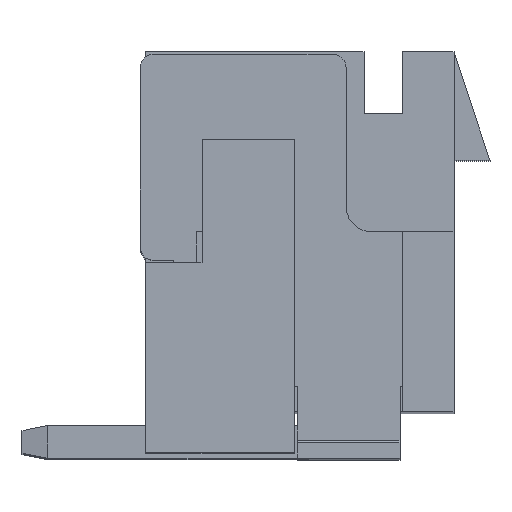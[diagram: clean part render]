
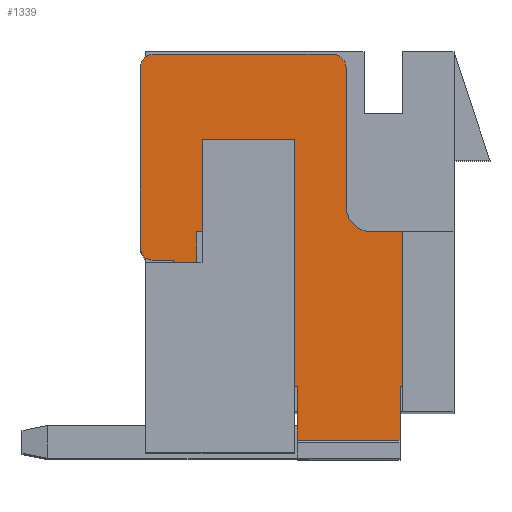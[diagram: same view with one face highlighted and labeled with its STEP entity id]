
A CAD part, top view. The second image highlights one B-rep face of the part: STEP entity #1339.
In plain terms, the highlighted planar face has unit normal (0, 0, 1).
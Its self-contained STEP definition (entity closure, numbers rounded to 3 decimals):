
#565=CARTESIAN_POINT('Vertex',(4.,-0.25,0.3)) ;
#579=CARTESIAN_POINT('Vertex',(3.75,0.,0.3)) ;
#582=CARTESIAN_POINT('Axis2P3D Location',(3.75,-0.25,0.3)) ;
#762=CARTESIAN_POINT('Vertex',(0.25,0.,0.3)) ;
#765=CARTESIAN_POINT('Line Origine',(2.,0.,0.3)) ;
#795=CARTESIAN_POINT('Vertex',(5.05,-7.5,0.3)) ;
#798=CARTESIAN_POINT('Line Origine',(2.775,-7.5,0.3)) ;
#802=CARTESIAN_POINT('Vertex',(3.05,-7.5,0.3)) ;
#941=CARTESIAN_POINT('Vertex',(5.05,-6.45,0.3)) ;
#944=CARTESIAN_POINT('Line Origine',(5.05,-6.975,0.3)) ;
#969=CARTESIAN_POINT('Vertex',(5.55,-6.45,0.3)) ;
#972=CARTESIAN_POINT('Line Origine',(5.3,-6.45,0.3)) ;
#993=CARTESIAN_POINT('Vertex',(5.55,-3.45,0.3)) ;
#996=CARTESIAN_POINT('Line Origine',(5.55,-4.95,0.3)) ;
#1017=CARTESIAN_POINT('Vertex',(4.5,-3.45,0.3)) ;
#1020=CARTESIAN_POINT('Line Origine',(5.025,-3.45,0.3)) ;
#1037=CARTESIAN_POINT('Axis2P3D Location',(4.5,-2.95,0.3)) ;
#1041=CARTESIAN_POINT('Vertex',(4.,-2.95,0.3)) ;
#1065=CARTESIAN_POINT('Vertex',(0.,-0.25,0.3)) ;
#1068=CARTESIAN_POINT('Axis2P3D Location',(0.25,-0.25,0.3)) ;
#1089=CARTESIAN_POINT('Vertex',(0.,-3.75,0.3)) ;
#1092=CARTESIAN_POINT('Line Origine',(0.,-2.,0.3)) ;
#1113=CARTESIAN_POINT('Vertex',(0.25,-4.,0.3)) ;
#1116=CARTESIAN_POINT('Axis2P3D Location',(0.25,-3.75,0.3)) ;
#1137=CARTESIAN_POINT('Vertex',(0.65,-4.,0.3)) ;
#1140=CARTESIAN_POINT('Line Origine',(0.45,-4.,0.3)) ;
#1161=CARTESIAN_POINT('Vertex',(0.65,-5.45,0.3)) ;
#1164=CARTESIAN_POINT('Line Origine',(0.65,-4.725,0.3)) ;
#1185=CARTESIAN_POINT('Vertex',(1.1,-5.45,0.3)) ;
#1188=CARTESIAN_POINT('Line Origine',(0.875,-5.45,0.3)) ;
#1209=CARTESIAN_POINT('Vertex',(1.1,-3.45,0.3)) ;
#1212=CARTESIAN_POINT('Line Origine',(1.1,-4.45,0.3)) ;
#1224=CARTESIAN_POINT('Line Origine',(1.825,-3.45,0.3)) ;
#1228=CARTESIAN_POINT('Vertex',(2.55,-3.45,0.3)) ;
#1252=CARTESIAN_POINT('Vertex',(2.55,-6.45,0.3)) ;
#1255=CARTESIAN_POINT('Line Origine',(2.55,-4.95,0.3)) ;
#1271=CARTESIAN_POINT('Vertex',(3.05,-6.45,0.3)) ;
#1274=CARTESIAN_POINT('Line Origine',(2.8,-6.45,0.3)) ;
#1291=CARTESIAN_POINT('Line Origine',(3.05,-6.975,0.3)) ;
#1307=CARTESIAN_POINT('Axis2P3D Location',(0.,0.,0.3)) ;
#1312=CARTESIAN_POINT('Line Origine',(4.,-1.6,0.3)) ;
#583=DIRECTION('Axis2P3D Direction',(0.,0.,-1.)) ;
#766=DIRECTION('Vector Direction',(1.,0.,0.)) ;
#799=DIRECTION('Vector Direction',(1.,0.,0.)) ;
#945=DIRECTION('Vector Direction',(0.,-1.,0.)) ;
#973=DIRECTION('Vector Direction',(-1.,0.,0.)) ;
#997=DIRECTION('Vector Direction',(0.,-1.,0.)) ;
#1021=DIRECTION('Vector Direction',(-1.,0.,0.)) ;
#1038=DIRECTION('Axis2P3D Direction',(0.,0.,-1.)) ;
#1069=DIRECTION('Axis2P3D Direction',(0.,0.,-1.)) ;
#1093=DIRECTION('Vector Direction',(0.,-1.,0.)) ;
#1117=DIRECTION('Axis2P3D Direction',(0.,0.,-1.)) ;
#1141=DIRECTION('Vector Direction',(1.,0.,0.)) ;
#1165=DIRECTION('Vector Direction',(0.,-1.,0.)) ;
#1189=DIRECTION('Vector Direction',(1.,0.,0.)) ;
#1213=DIRECTION('Vector Direction',(0.,1.,0.)) ;
#1225=DIRECTION('Vector Direction',(-1.,0.,0.)) ;
#1256=DIRECTION('Vector Direction',(0.,-1.,0.)) ;
#1275=DIRECTION('Vector Direction',(1.,0.,0.)) ;
#1292=DIRECTION('Vector Direction',(0.,-1.,0.)) ;
#1308=DIRECTION('Axis2P3D Direction',(-0.,0.,1.)) ;
#1309=DIRECTION('Axis2P3D XDirection',(0.,-1.,0.)) ;
#1313=DIRECTION('Vector Direction',(0.,1.,0.)) ;
#584=AXIS2_PLACEMENT_3D('Circle Axis2P3D',#582,#583,$) ;
#1039=AXIS2_PLACEMENT_3D('Circle Axis2P3D',#1037,#1038,$) ;
#1070=AXIS2_PLACEMENT_3D('Circle Axis2P3D',#1068,#1069,$) ;
#1118=AXIS2_PLACEMENT_3D('Circle Axis2P3D',#1116,#1117,$) ;
#1310=AXIS2_PLACEMENT_3D('Plane Axis2P3D',#1307,#1308,#1309) ;
#1318=ORIENTED_EDGE('',*,*,#1072,.T.) ;
#1319=ORIENTED_EDGE('',*,*,#1096,.T.) ;
#1320=ORIENTED_EDGE('',*,*,#1120,.T.) ;
#1321=ORIENTED_EDGE('',*,*,#1144,.T.) ;
#1322=ORIENTED_EDGE('',*,*,#1168,.T.) ;
#1323=ORIENTED_EDGE('',*,*,#1192,.T.) ;
#1324=ORIENTED_EDGE('',*,*,#1216,.T.) ;
#1325=ORIENTED_EDGE('',*,*,#1230,.F.) ;
#1326=ORIENTED_EDGE('',*,*,#1259,.T.) ;
#1327=ORIENTED_EDGE('',*,*,#1278,.T.) ;
#1328=ORIENTED_EDGE('',*,*,#1295,.T.) ;
#1329=ORIENTED_EDGE('',*,*,#804,.T.) ;
#1330=ORIENTED_EDGE('',*,*,#948,.F.) ;
#1331=ORIENTED_EDGE('',*,*,#976,.F.) ;
#1332=ORIENTED_EDGE('',*,*,#1000,.F.) ;
#1333=ORIENTED_EDGE('',*,*,#1024,.T.) ;
#1334=ORIENTED_EDGE('',*,*,#1043,.F.) ;
#1335=ORIENTED_EDGE('',*,*,#1316,.T.) ;
#1336=ORIENTED_EDGE('',*,*,#586,.T.) ;
#1337=ORIENTED_EDGE('',*,*,#769,.F.) ;
#767=VECTOR('Line Direction',#766,1.) ;
#800=VECTOR('Line Direction',#799,1.) ;
#946=VECTOR('Line Direction',#945,1.) ;
#974=VECTOR('Line Direction',#973,1.) ;
#998=VECTOR('Line Direction',#997,1.) ;
#1022=VECTOR('Line Direction',#1021,1.) ;
#1094=VECTOR('Line Direction',#1093,1.) ;
#1142=VECTOR('Line Direction',#1141,1.) ;
#1166=VECTOR('Line Direction',#1165,1.) ;
#1190=VECTOR('Line Direction',#1189,1.) ;
#1214=VECTOR('Line Direction',#1213,1.) ;
#1226=VECTOR('Line Direction',#1225,1.) ;
#1257=VECTOR('Line Direction',#1256,1.) ;
#1276=VECTOR('Line Direction',#1275,1.) ;
#1293=VECTOR('Line Direction',#1292,1.) ;
#1314=VECTOR('Line Direction',#1313,1.) ;
#1339=ADVANCED_FACE('\X2\96F64EF651E04F554F53\X0\',(#1338),#1311,.T.) ;
#585=CIRCLE('generated circle',#584,0.25) ;
#1040=CIRCLE('generated circle',#1039,0.5) ;
#1071=CIRCLE('generated circle',#1070,0.25) ;
#1119=CIRCLE('generated circle',#1118,0.25) ;
#586=EDGE_CURVE('',#566,#580,#585,.F.) ;
#769=EDGE_CURVE('',#763,#580,#768,.T.) ;
#804=EDGE_CURVE('',#803,#796,#801,.T.) ;
#948=EDGE_CURVE('',#942,#796,#947,.T.) ;
#976=EDGE_CURVE('',#970,#942,#975,.T.) ;
#1000=EDGE_CURVE('',#994,#970,#999,.T.) ;
#1024=EDGE_CURVE('',#994,#1018,#1023,.T.) ;
#1043=EDGE_CURVE('',#1042,#1018,#1040,.F.) ;
#1072=EDGE_CURVE('',#763,#1066,#1071,.F.) ;
#1096=EDGE_CURVE('',#1066,#1090,#1095,.T.) ;
#1120=EDGE_CURVE('',#1090,#1114,#1119,.F.) ;
#1144=EDGE_CURVE('',#1114,#1138,#1143,.T.) ;
#1168=EDGE_CURVE('',#1138,#1162,#1167,.T.) ;
#1192=EDGE_CURVE('',#1162,#1186,#1191,.T.) ;
#1216=EDGE_CURVE('',#1186,#1210,#1215,.T.) ;
#1230=EDGE_CURVE('',#1229,#1210,#1227,.T.) ;
#1259=EDGE_CURVE('',#1229,#1253,#1258,.T.) ;
#1278=EDGE_CURVE('',#1253,#1272,#1277,.T.) ;
#1295=EDGE_CURVE('',#1272,#803,#1294,.T.) ;
#1316=EDGE_CURVE('',#1042,#566,#1315,.T.) ;
#1317=EDGE_LOOP('',(#1318,#1319,#1320,#1321,#1322,#1323,#1324,#1325,#1326,#1327,#1328,#1329,#1330,#1331,#1332,#1333,#1334,#1335,#1336,#1337)) ;
#1338=FACE_OUTER_BOUND('',#1317,.T.) ;
#768=LINE('Line',#765,#767) ;
#801=LINE('Line',#798,#800) ;
#947=LINE('Line',#944,#946) ;
#975=LINE('Line',#972,#974) ;
#999=LINE('Line',#996,#998) ;
#1023=LINE('Line',#1020,#1022) ;
#1095=LINE('Line',#1092,#1094) ;
#1143=LINE('Line',#1140,#1142) ;
#1167=LINE('Line',#1164,#1166) ;
#1191=LINE('Line',#1188,#1190) ;
#1215=LINE('Line',#1212,#1214) ;
#1227=LINE('Line',#1224,#1226) ;
#1258=LINE('Line',#1255,#1257) ;
#1277=LINE('Line',#1274,#1276) ;
#1294=LINE('Line',#1291,#1293) ;
#1315=LINE('Line',#1312,#1314) ;
#1311=PLANE('Plane',#1310) ;
#566=VERTEX_POINT('',#565) ;
#580=VERTEX_POINT('',#579) ;
#763=VERTEX_POINT('',#762) ;
#796=VERTEX_POINT('',#795) ;
#803=VERTEX_POINT('',#802) ;
#942=VERTEX_POINT('',#941) ;
#970=VERTEX_POINT('',#969) ;
#994=VERTEX_POINT('',#993) ;
#1018=VERTEX_POINT('',#1017) ;
#1042=VERTEX_POINT('',#1041) ;
#1066=VERTEX_POINT('',#1065) ;
#1090=VERTEX_POINT('',#1089) ;
#1114=VERTEX_POINT('',#1113) ;
#1138=VERTEX_POINT('',#1137) ;
#1162=VERTEX_POINT('',#1161) ;
#1186=VERTEX_POINT('',#1185) ;
#1210=VERTEX_POINT('',#1209) ;
#1229=VERTEX_POINT('',#1228) ;
#1253=VERTEX_POINT('',#1252) ;
#1272=VERTEX_POINT('',#1271) ;
